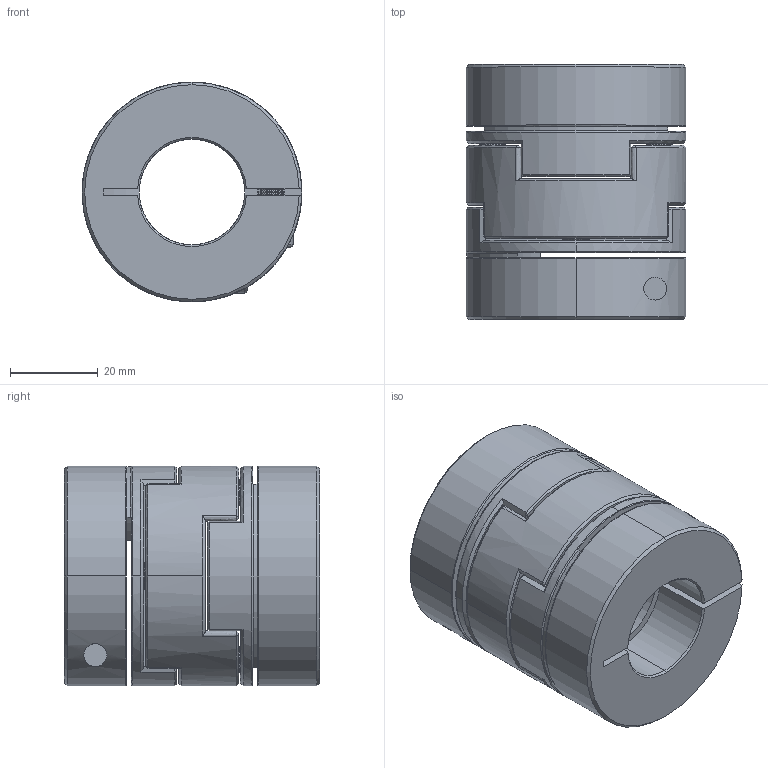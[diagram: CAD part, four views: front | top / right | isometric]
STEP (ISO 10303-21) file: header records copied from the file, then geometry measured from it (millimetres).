
FILE_DESCRIPTION (( 'STEP AP203' ), '1' );
FILE_NAME ('LZ-B-D50L58-24-24.STEP', '2021-10-29T08:17:33', ( '' ), ( '' ), 'SwSTEP 2.0', 'SolidWorks 2018', '' );
FILE_SCHEMA (( 'CONFIG_CONTROL_DESIGN' ));
Length unit declared in the file: millimetre
Products named in the file (1): LZ-B-D50L58-24-24
Bounding box: 50 x 58 x 50 mm (x, y, z)
Volume: 81080.3 mm3; surface area: 29197.1 mm2
Topology: 1 solids, 27 shells, 562 faces, 1376 edges, 818 vertices
Faces by surface type: cone 252, cylinder 160, plane 92, bspline 54, torus 4
Entity records: 17542 total; most frequent: CARTESIAN_POINT 4388, DIRECTION 2790, ORIENTED_EDGE 2744, EDGE_CURVE 1372, AXIS2_PLACEMENT_3D 1125, VERTEX_POINT 818, CIRCLE 616, EDGE_LOOP 594
